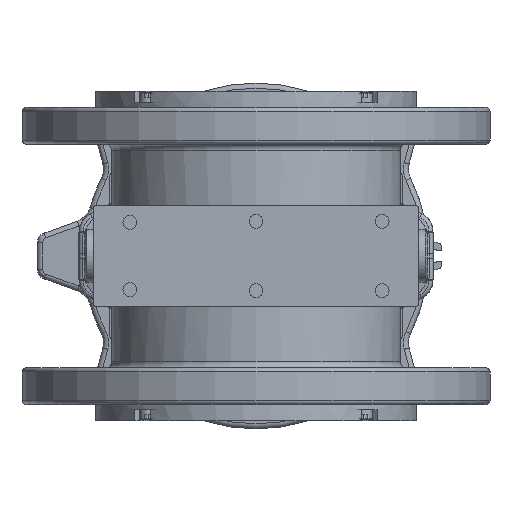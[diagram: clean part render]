
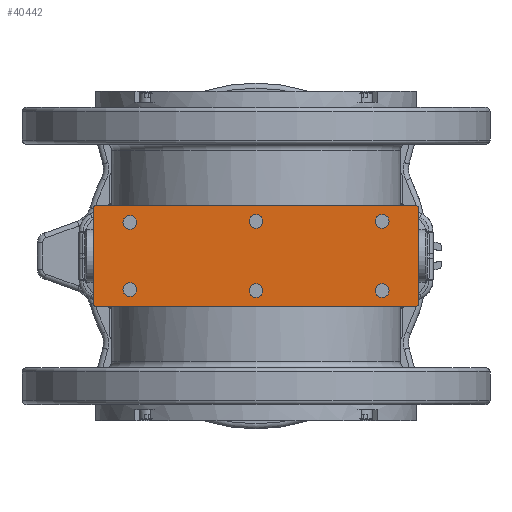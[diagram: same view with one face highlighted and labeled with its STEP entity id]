
A CAD part, front view. The second image highlights one B-rep face of the part: STEP entity #40442.
In plain terms, the highlighted planar face has unit normal (0, -1, 0).
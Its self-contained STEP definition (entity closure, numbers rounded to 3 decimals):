
#2870=FACE_BOUND('',#12214,.T.);
#2871=FACE_BOUND('',#12215,.T.);
#2872=FACE_BOUND('',#12216,.T.);
#2873=FACE_BOUND('',#12217,.T.);
#2874=FACE_BOUND('',#12218,.T.);
#2875=FACE_BOUND('',#12219,.T.);
#4358=LINE('',#87525,#6448);
#4365=LINE('',#87554,#6455);
#4366=LINE('',#87557,#6456);
#4367=LINE('',#87558,#6457);
#6448=VECTOR('',#54306,10.);
#6455=VECTOR('',#54341,1.);
#6456=VECTOR('',#54344,1.);
#6457=VECTOR('',#54345,1.);
#7707=PLANE('',#44617);
#9645=FACE_OUTER_BOUND('',#12213,.T.);
#12213=EDGE_LOOP('',(#33586,#33587,#33588,#33589,#33590,#33591,#33592,#33593));
#12214=EDGE_LOOP('',(#33594,#33595));
#12215=EDGE_LOOP('',(#33596,#33597));
#12216=EDGE_LOOP('',(#33598,#33599));
#12217=EDGE_LOOP('',(#33600,#33601));
#12218=EDGE_LOOP('',(#33602,#33603));
#12219=EDGE_LOOP('',(#33604,#33605));
#14875=CIRCLE('',#44259,3.375);
#14876=CIRCLE('',#44260,3.375);
#14880=CIRCLE('',#44266,3.375);
#14881=CIRCLE('',#44267,3.375);
#15020=CIRCLE('',#44551,3.375);
#15021=CIRCLE('',#44552,3.375);
#15023=CIRCLE('',#44556,3.375);
#15024=CIRCLE('',#44557,3.375);
#15028=CIRCLE('',#44563,3.375);
#15029=CIRCLE('',#44564,3.375);
#15031=CIRCLE('',#44568,3.375);
#15032=CIRCLE('',#44569,3.375);
#15050=CIRCLE('',#44609,2.);
#15051=CIRCLE('',#44611,2.);
#15053=CIRCLE('',#44618,2.);
#15054=CIRCLE('',#44619,2.);
#18255=VERTEX_POINT('',#77879);
#18256=VERTEX_POINT('',#77881);
#18259=VERTEX_POINT('',#77891);
#18260=VERTEX_POINT('',#77893);
#18466=VERTEX_POINT('',#85866);
#18467=VERTEX_POINT('',#85868);
#18470=VERTEX_POINT('',#85876);
#18471=VERTEX_POINT('',#85878);
#18474=VERTEX_POINT('',#85888);
#18475=VERTEX_POINT('',#85890);
#18478=VERTEX_POINT('',#85898);
#18479=VERTEX_POINT('',#85900);
#18499=VERTEX_POINT('',#87519);
#18501=VERTEX_POINT('',#87523);
#18502=VERTEX_POINT('',#87530);
#18503=VERTEX_POINT('',#87534);
#18507=VERTEX_POINT('',#87550);
#18508=VERTEX_POINT('',#87551);
#18509=VERTEX_POINT('',#87553);
#18510=VERTEX_POINT('',#87555);
#23434=EDGE_CURVE('',#18256,#18255,#14875,.T.);
#23435=EDGE_CURVE('',#18255,#18256,#14876,.T.);
#23440=EDGE_CURVE('',#18259,#18260,#14880,.T.);
#23441=EDGE_CURVE('',#18260,#18259,#14881,.T.);
#23807=EDGE_CURVE('',#18466,#18467,#15020,.T.);
#23808=EDGE_CURVE('',#18467,#18466,#15021,.T.);
#23811=EDGE_CURVE('',#18471,#18470,#15023,.T.);
#23812=EDGE_CURVE('',#18470,#18471,#15024,.T.);
#23817=EDGE_CURVE('',#18474,#18475,#15028,.T.);
#23818=EDGE_CURVE('',#18475,#18474,#15029,.T.);
#23821=EDGE_CURVE('',#18479,#18478,#15031,.T.);
#23822=EDGE_CURVE('',#18478,#18479,#15032,.T.);
#23880=EDGE_CURVE('',#18501,#18499,#4358,.T.);
#23883=EDGE_CURVE('',#18502,#18501,#15050,.T.);
#23885=EDGE_CURVE('',#18499,#18503,#15051,.T.);
#23893=EDGE_CURVE('',#18507,#18508,#15053,.T.);
#23894=EDGE_CURVE('',#18509,#18507,#4365,.T.);
#23895=EDGE_CURVE('',#18510,#18509,#15054,.T.);
#23896=EDGE_CURVE('',#18503,#18510,#4366,.T.);
#23897=EDGE_CURVE('',#18502,#18508,#4367,.T.);
#33586=ORIENTED_EDGE('',*,*,#23893,.F.);
#33587=ORIENTED_EDGE('',*,*,#23894,.F.);
#33588=ORIENTED_EDGE('',*,*,#23895,.F.);
#33589=ORIENTED_EDGE('',*,*,#23896,.F.);
#33590=ORIENTED_EDGE('',*,*,#23885,.F.);
#33591=ORIENTED_EDGE('',*,*,#23880,.F.);
#33592=ORIENTED_EDGE('',*,*,#23883,.F.);
#33593=ORIENTED_EDGE('',*,*,#23897,.T.);
#33594=ORIENTED_EDGE('',*,*,#23441,.F.);
#33595=ORIENTED_EDGE('',*,*,#23440,.F.);
#33596=ORIENTED_EDGE('',*,*,#23434,.T.);
#33597=ORIENTED_EDGE('',*,*,#23435,.T.);
#33598=ORIENTED_EDGE('',*,*,#23808,.F.);
#33599=ORIENTED_EDGE('',*,*,#23807,.F.);
#33600=ORIENTED_EDGE('',*,*,#23811,.T.);
#33601=ORIENTED_EDGE('',*,*,#23812,.T.);
#33602=ORIENTED_EDGE('',*,*,#23818,.F.);
#33603=ORIENTED_EDGE('',*,*,#23817,.F.);
#33604=ORIENTED_EDGE('',*,*,#23821,.T.);
#33605=ORIENTED_EDGE('',*,*,#23822,.T.);
#40442=ADVANCED_FACE('',(#9645,#2870,#2871,#2872,#2873,#2874,#2875),#7707,
 .F.);
#44259=AXIS2_PLACEMENT_3D('',#77882,#53468,#53469);
#44260=AXIS2_PLACEMENT_3D('',#77883,#53470,#53471);
#44266=AXIS2_PLACEMENT_3D('',#77894,#53483,#53484);
#44267=AXIS2_PLACEMENT_3D('',#77895,#53485,#53486);
#44551=AXIS2_PLACEMENT_3D('',#85869,#54177,#54178);
#44552=AXIS2_PLACEMENT_3D('',#85870,#54179,#54180);
#44556=AXIS2_PLACEMENT_3D('',#85879,#54188,#54189);
#44557=AXIS2_PLACEMENT_3D('',#85880,#54190,#54191);
#44563=AXIS2_PLACEMENT_3D('',#85891,#54203,#54204);
#44564=AXIS2_PLACEMENT_3D('',#85892,#54205,#54206);
#44568=AXIS2_PLACEMENT_3D('',#85901,#54214,#54215);
#44569=AXIS2_PLACEMENT_3D('',#85902,#54216,#54217);
#44609=AXIS2_PLACEMENT_3D('',#87531,#54315,#54316);
#44611=AXIS2_PLACEMENT_3D('',#87535,#54320,#54321);
#44617=AXIS2_PLACEMENT_3D('',#87549,#54337,#54338);
#44618=AXIS2_PLACEMENT_3D('',#87552,#54339,#54340);
#44619=AXIS2_PLACEMENT_3D('',#87556,#54342,#54343);
#53468=DIRECTION('center_axis',(0.,1.,0.));
#53469=DIRECTION('ref_axis',(0.,0.,
1.));
#53470=DIRECTION('center_axis',(0.,1.,0.));
#53471=DIRECTION('ref_axis',(0.,0.,
1.));
#53483=DIRECTION('center_axis',(0.,-1.,0.));
#53484=DIRECTION('ref_axis',(0.,0.,
-1.));
#53485=DIRECTION('center_axis',(0.,-1.,0.));
#53486=DIRECTION('ref_axis',(0.,0.,
-1.));
#54177=DIRECTION('center_axis',(0.,-1.,0.));
#54178=DIRECTION('ref_axis',(0.,0.,
-1.));
#54179=DIRECTION('center_axis',(0.,-1.,0.));
#54180=DIRECTION('ref_axis',(0.,0.,
-1.));
#54188=DIRECTION('center_axis',(0.,1.,0.));
#54189=DIRECTION('ref_axis',(0.,0.,
1.));
#54190=DIRECTION('center_axis',(0.,1.,0.));
#54191=DIRECTION('ref_axis',(0.,0.,
1.));
#54203=DIRECTION('center_axis',(0.,-1.,0.));
#54204=DIRECTION('ref_axis',(0.,0.,
-1.));
#54205=DIRECTION('center_axis',(0.,-1.,0.));
#54206=DIRECTION('ref_axis',(0.,0.,
-1.));
#54214=DIRECTION('center_axis',(0.,1.,0.));
#54215=DIRECTION('ref_axis',(0.,0.,
1.));
#54216=DIRECTION('center_axis',(0.,1.,0.));
#54217=DIRECTION('ref_axis',(0.,0.,
1.));
#54306=DIRECTION('',(-1.,0.,0.));
#54315=DIRECTION('center_axis',(0.,1.,0.));
#54316=DIRECTION('ref_axis',(0.707,0.,-0.707));
#54320=DIRECTION('center_axis',(0.,1.,0.));
#54321=DIRECTION('ref_axis',(-0.707,0.,-0.707));
#54337=DIRECTION('center_axis',(0.,1.,0.));
#54338=DIRECTION('ref_axis',(0.,0.,-1.));
#54339=DIRECTION('center_axis',(0.,1.,0.));
#54340=DIRECTION('ref_axis',(0.707,0.,0.707));
#54341=DIRECTION('',(1.,0.,0.));
#54342=DIRECTION('center_axis',(0.,1.,0.));
#54343=DIRECTION('ref_axis',(-0.707,0.,0.707));
#54344=DIRECTION('',(0.,0.,1.));
#54345=DIRECTION('',(0.,0.,1.));
#77879=CARTESIAN_POINT('',(0.,283.5,-20.375));
#77881=CARTESIAN_POINT('',(0.,283.5,-13.625));
#77882=CARTESIAN_POINT('Origin',(0.,283.5,
-17.));
#77883=CARTESIAN_POINT('Origin',(0.,283.5,
-17.));
#77891=CARTESIAN_POINT('',(0.,283.5,20.375));
#77893=CARTESIAN_POINT('',(0.,283.5,13.625));
#77894=CARTESIAN_POINT('Origin',(0.,283.5,
17.));
#77895=CARTESIAN_POINT('Origin',(0.,283.5,
17.));
#85866=CARTESIAN_POINT('',(62.,283.5,20.375));
#85868=CARTESIAN_POINT('',(62.,283.5,13.625));
#85869=CARTESIAN_POINT('Origin',(62.,283.5,17.));
#85870=CARTESIAN_POINT('Origin',(62.,283.5,17.));
#85876=CARTESIAN_POINT('',(62.,283.5,-20.375));
#85878=CARTESIAN_POINT('',(62.,283.5,-13.625));
#85879=CARTESIAN_POINT('Origin',(62.,283.5,-17.));
#85880=CARTESIAN_POINT('Origin',(62.,283.5,-17.));
#85888=CARTESIAN_POINT('',(-62.,283.5,19.875));
#85890=CARTESIAN_POINT('',(-62.,283.5,13.125));
#85891=CARTESIAN_POINT('Origin',(-62.,283.5,16.5));
#85892=CARTESIAN_POINT('Origin',(-62.,283.5,16.5));
#85898=CARTESIAN_POINT('',(-62.,283.5,-19.875));
#85900=CARTESIAN_POINT('',(-62.,283.5,-13.125));
#85901=CARTESIAN_POINT('Origin',(-62.,283.5,-16.5));
#85902=CARTESIAN_POINT('Origin',(-62.,283.5,-16.5));
#87519=CARTESIAN_POINT('',(-78.,283.5,-25.));
#87523=CARTESIAN_POINT('',(78.,283.5,-25.));
#87525=CARTESIAN_POINT('',(75.5,283.5,-25.));
#87530=CARTESIAN_POINT('',(80.,283.5,-23.));
#87531=CARTESIAN_POINT('Origin',(78.,283.5,-23.));
#87534=CARTESIAN_POINT('',(-80.,283.5,-23.));
#87535=CARTESIAN_POINT('Origin',(-78.,283.5,-23.));
#87549=CARTESIAN_POINT('Origin',(71.,283.5,-15.5));
#87550=CARTESIAN_POINT('',(78.,283.5,25.));
#87551=CARTESIAN_POINT('',(80.,283.5,23.));
#87552=CARTESIAN_POINT('Origin',(78.,283.5,23.));
#87553=CARTESIAN_POINT('',(-78.,283.5,25.));
#87554=CARTESIAN_POINT('',(-80.,283.5,25.));
#87555=CARTESIAN_POINT('',(-80.,283.5,23.));
#87556=CARTESIAN_POINT('Origin',(-78.,283.5,23.));
#87557=CARTESIAN_POINT('',(-80.,283.5,-16.));
#87558=CARTESIAN_POINT('',(80.,283.5,-16.));
